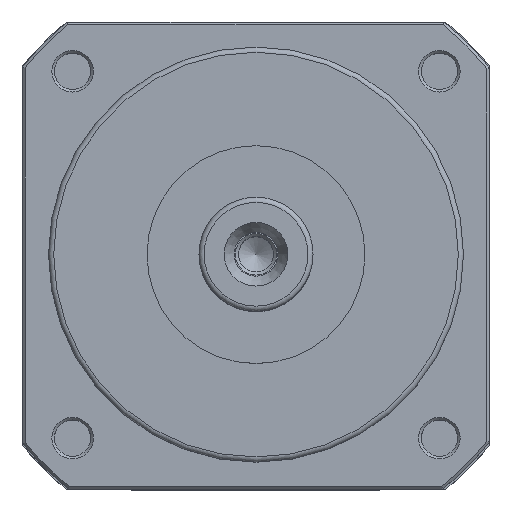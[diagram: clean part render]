
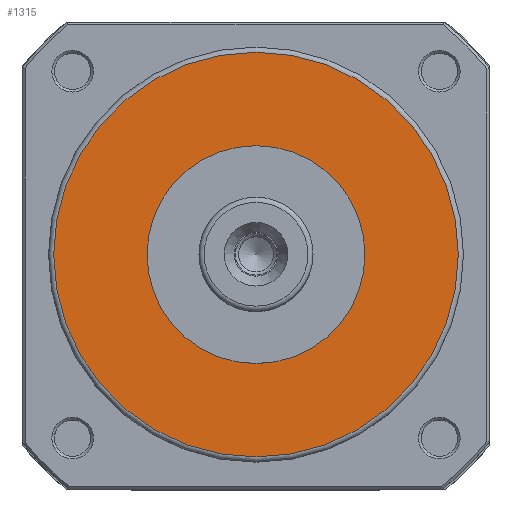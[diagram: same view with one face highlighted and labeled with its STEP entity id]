
A CAD part, top view. The second image highlights one B-rep face of the part: STEP entity #1315.
In plain terms, the highlighted planar face has unit normal (0, 0, 1).
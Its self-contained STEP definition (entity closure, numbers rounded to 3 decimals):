
#1315=ADVANCED_FACE('',(#1815,#1816),#1642,.T.);
#1642=PLANE('',#5705);
#1815=FACE_BOUND('',#2166,.T.);
#1816=FACE_BOUND('',#2167,.T.);
#2166=EDGE_LOOP('',(#2867));
#2167=EDGE_LOOP('',(#2868));
#2867=ORIENTED_EDGE('',*,*,#4725,.F.);
#2868=ORIENTED_EDGE('',*,*,#4726,.T.);
#4172=VERTEX_POINT('',#8366);
#4173=VERTEX_POINT('',#8368);
#4725=EDGE_CURVE('',#4172,#4172,#5328,.T.);
#4726=EDGE_CURVE('',#4173,#4173,#5329,.T.);
#5328=CIRCLE('',#5703,21.);
#5329=CIRCLE('',#5704,39.);
#5703=AXIS2_PLACEMENT_3D('',#8365,#6626,#6627);
#5704=AXIS2_PLACEMENT_3D('',#8367,#6628,#6629);
#5705=AXIS2_PLACEMENT_3D('',#8369,#6630,#6631);
#6626=DIRECTION('',(0.,0.,1.));
#6627=DIRECTION('',(1.,0.,0.));
#6628=DIRECTION('',(0.,0.,1.));
#6629=DIRECTION('',(1.,0.,0.));
#6630=DIRECTION('',(0.,0.,1.));
#6631=DIRECTION('',(1.,0.,0.));
#8365=CARTESIAN_POINT('',(0.,0.,105.5));
#8366=CARTESIAN_POINT('',(21.,0.,105.5));
#8367=CARTESIAN_POINT('',(0.,0.,105.5));
#8368=CARTESIAN_POINT('',(39.,0.,105.5));
#8369=CARTESIAN_POINT('',(0.,0.,105.5));
